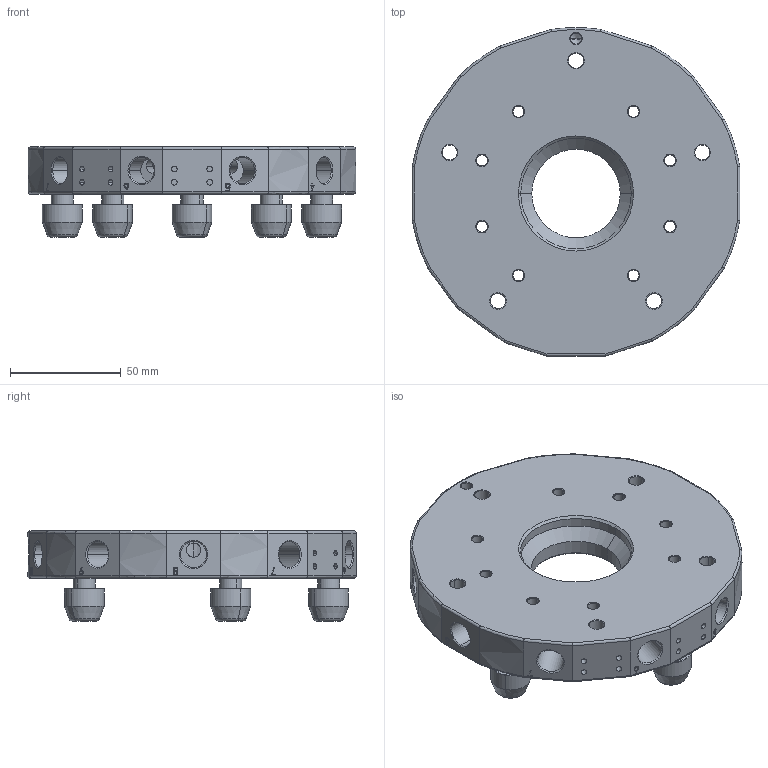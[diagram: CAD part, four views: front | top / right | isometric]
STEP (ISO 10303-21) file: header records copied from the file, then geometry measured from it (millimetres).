
FILE_DESCRIPTION (( 'STEP AP203' ), '1' );
FILE_NAME ('QC-G150.STEP', '2024-03-20T03:42:01', ( '微软用户' ), ( '微软中国' ), 'SwSTEP 2.0', 'SolidWorks 2018', '' );
FILE_SCHEMA (( 'CONFIG_CONTROL_DESIGN' ));
Length unit declared in the file: millimetre
Products named in the file (1): QC-G150
Bounding box: 148 x 148.41 x 40.7 mm (x, y, z)
Volume: 269775.8 mm3; surface area: 71814.4 mm2
Topology: 1 solids, 11 shells, 619 faces, 1355 edges, 816 vertices
Faces by surface type: cylinder 220, plane 162, cone 114, torus 86, bspline 37
Entity records: 22154 total; most frequent: CARTESIAN_POINT 8328, DIRECTION 3021, ORIENTED_EDGE 2686, EDGE_CURVE 1343, AXIS2_PLACEMENT_3D 1229, VERTEX_POINT 816, EDGE_LOOP 747, CIRCLE 646
